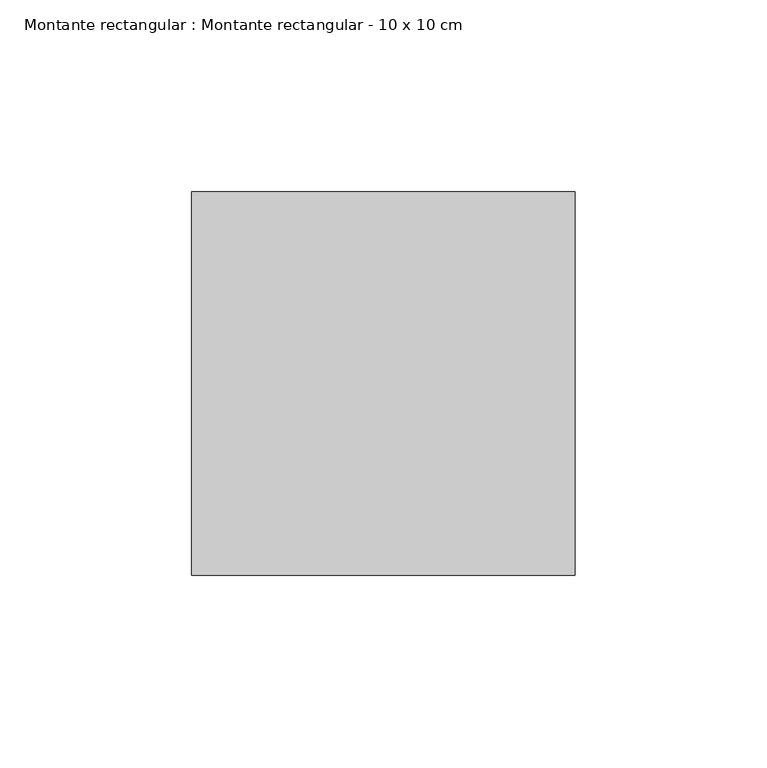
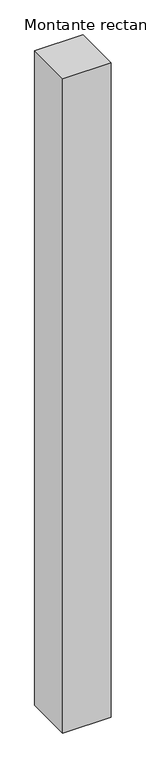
"""IFC4 building model written with IfcOpenShell, lengths in millimetres: member geometry, Montante rectangular : Montante rectangular - 10 x 10 cm."""

from ifc_helpers import new_model, si_unit, frame, origin, place, context, project, spatial, polyline, outline, extrude, source, transform, mapped, element, save


def montante_rectangular_montante_rectangular_10_x_10_cm_d48a71bb(model_context):
    return source(origin(), model_context, "Body", "SweptSolid", [
        extrude(outline(polyline([(-100.0, 50.0), (0.0, 50.0), (0.0, -50.0), (-100.0, -50.0), (-100.0, 50.0)])), frame((0.0, 0.0, -1427.9575859), z_axis=(0.0, 0.0, 1.0), x_axis=(1.0, 0.0, 0.0)), (0.0, 0.0, 1.0), 1427.9575859),
    ])


if __name__ == "__main__":
    model = new_model("IFC4")
    model_context = context("Model", 3, world=origin())
    ifc_project = project(units=[si_unit("LENGTHUNIT", "METRE", prefix="MILLI")], contexts=[model_context])
    site = spatial("IfcSite", under=ifc_project)
    building = spatial("IfcBuilding", under=site)
    placement = place(None, origin())
    montante_rectangular_montante_rectangular_10_x_10_cm_shape = montante_rectangular_montante_rectangular_10_x_10_cm_d48a71bb(model_context)
    element("IfcMember", 1, ObjectType="Montante rectangular : Montante rectangular - 10 x 10 cm", at=placement, inside=building, context=model_context, shape_type="MappedRepresentation", body=[
        mapped(montante_rectangular_montante_rectangular_10_x_10_cm_shape, transform((0.0, 0.0, 0.0), x_axis=(1.0, 0.0, 0.0), y_axis=(0.0, 1.0, 0.0), z_axis=(0.0, 0.0, 1.0))),
    ])
    save(model, "model.ifc")
